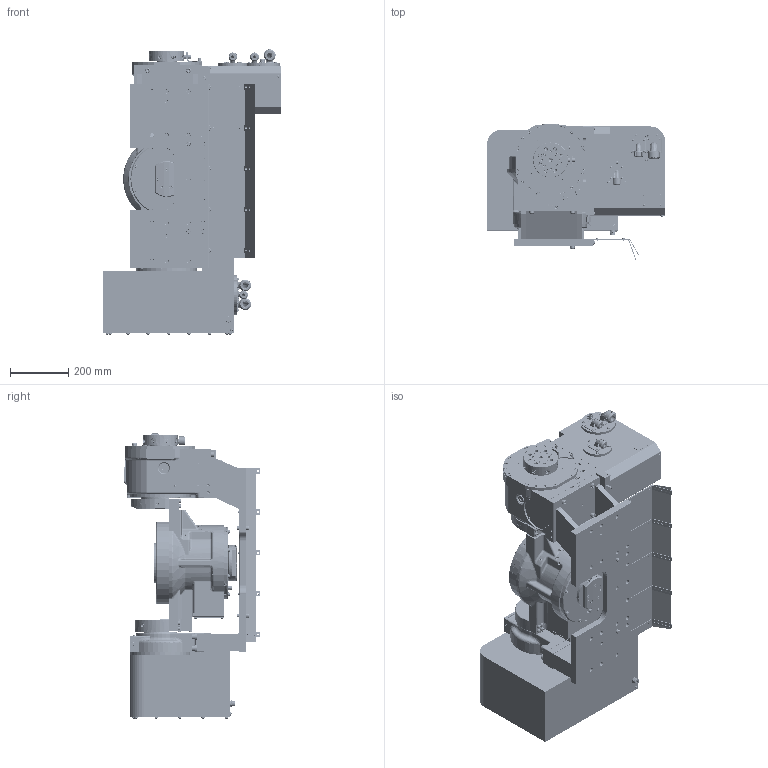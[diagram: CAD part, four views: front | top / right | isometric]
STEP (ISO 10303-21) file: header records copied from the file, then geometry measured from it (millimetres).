
FILE_DESCRIPTION (( 'STEP AP214' ), '1' );
FILE_NAME ('DHP-61E701817-1.STEP', '2026-10-08T03:10:59', ( '' ), ( '' ), 'SwSTEP 2.0', 'SolidWorks 2022', '' );
FILE_SCHEMA (( 'AUTOMOTIVE_DESIGN' ));
Length unit declared in the file: millimetre
Products named in the file (109): 069HLA0063; 61E868861; 61E445567; 61E868860; 61E701770; 61E868184; 073GBA0008; 0030105035; 0263000700_平面内圧用; 61E868193; 0263203900_円筒用; 61E494898; 61E498253; 61E872855; 008DAA0006; 008DEA0022; 61E494516; 61M419875; 079AAA0001^61E872887; 61E494515; 61E118160; 313ABA0001; 0030106012; 61E448373; 025AHA0001; 61E870440; 0285004010; 61E297003_ﾃﾞﾌｫﾙﾄ<ﾏｼﾝ加工>; 0150010500; 0263211500_円筒用; 61E872986; 0158010014; 61E488169; 61E498401; 0263213000_平面内圧用; 0263201400_平面内圧用; 61E871258; DHP-61E701817-1; 0263108000_平面外圧用; 0283206016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
Assembly tree (368 placements, depth 4):
  0263000700_平面内圧用
  079AAA0001^61E872887
  DHP-61E701817-1
    61E872855
      61E873759
      61E872986
      61E865578
      61E118160
      61E118159
      61E868192
      61E295298
      61E868193
      61M495028  x2
        61M419875
        0030106012
    61E872887
      61E120537
      0030110045  x4
      0080011020
      61E871258  x5
      0030105012  x5
      0150010500  x5
      61E872888
      008DAA0002  x10
      0150010400  x10
      61E448373  x2
      61E445567  x2
      008DEA0022  x2
      073GBA0008  x2
      073GBA0009  x7
    61E701770
      0030106016  x4
      0030108035  x6
      008CZA0035
      0158000005
      0263112500_RKT500傾斜カップリング仕様
      0263113500_平面_RKT500_ベース
      0263201400_平面内圧用  x2
      026ADA0033_RKT500_モータフランジ
      0283206016  x2
      313ABA0001
      313ALA0003
      61E872818
      61E297003_ﾃﾞﾌｫﾙﾄ<ﾏｼﾝ加工>
    61E483959
      61E486542
      017ACA0001_PL2.3取付時  x4
    61E701648
      0263108000_平面外圧用
      0263201800_平面内圧用
      0158010006  x8
      0030106016  x8
      0158000005  x35
      008CZA0035  x21
      008DAA0006  x14
      61E701595
      61E872623
      61E868184
      0263225000^61E701648
      044ENA0003_ナット有(3.5mm)
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Bounding box: 610 x 467.66 x 977.64 mm (x, y, z)
Volume: 39894716.7 mm3; surface area: 6054360.9 mm2
Topology: 559 solids, 662 shells, 14389 faces, 35472 edges, 23446 vertices
Faces by surface type: plane 7348, cylinder 3398, cone 2590, torus 501, bspline 450, sphere 102
Full cylindrical faces by diameter (mm): 2 x1, 2.5 x8, 2.8 x1, 3 x8, 3.3 x52, 4 x49, 4.2 x200, 4.3 x34, 4.5 x25, 5 x209, 5.3 x5, 5.5 x26, 6 x227, 6.2 x12, 6.4 x15, 6.5 x2, 6.6 x37, 6.72 x8, 6.8 x60, 7 x53, 7.723 x6, 7.8 x6, 8 x61, 8.1 x4, 8.3 x8, 8.5 x47, 8.72 x25, 9 x101, 9.2 x28, 9.5 x16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
Entity records: 387289 total; most frequent: CARTESIAN_POINT 116495, DIRECTION 41328, ORIENTED_EDGE 39388, EDGE_CURVE 19694, AXIS2_PLACEMENT_3D 16344, EDGE_LOOP 15648, VERTEX_POINT 15320, FACE_OUTER_BOUND 11712
